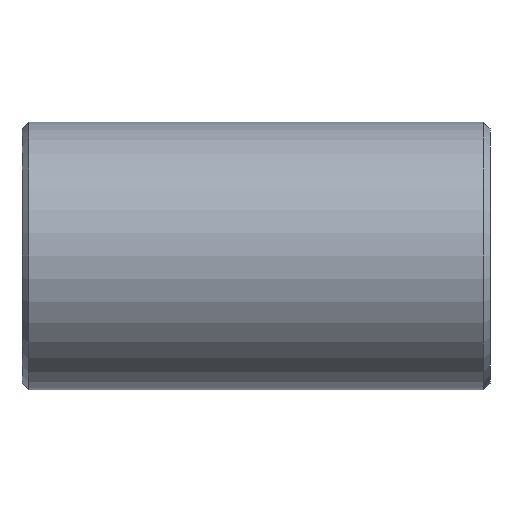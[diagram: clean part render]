
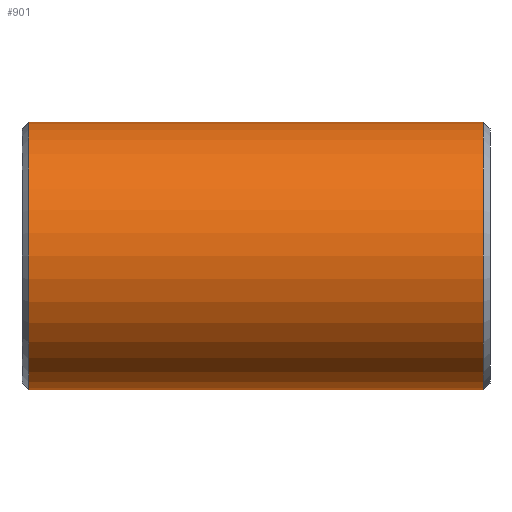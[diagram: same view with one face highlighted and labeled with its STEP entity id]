
A CAD part, left-side view. The second image highlights one B-rep face of the part: STEP entity #901.
In plain terms, the highlighted cylindrical face has radius 10 mm (diameter 20 mm), a partial arc.
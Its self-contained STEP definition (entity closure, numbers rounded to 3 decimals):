
#30 = CIRCLE ( 'NONE', #169, 10. ) ;
#61 = EDGE_LOOP ( 'NONE', ( #902, #170, #103, #231 ) ) ;
#71 = CARTESIAN_POINT ( 'NONE',  ( 0., 65.513, -10. ) ) ;
#103 = ORIENTED_EDGE ( 'NONE', *, *, #445, .T. ) ;
#108 = VECTOR ( 'NONE', #1232, 1000. ) ;
#147 = CARTESIAN_POINT ( 'NONE',  ( 0., -33., 10. ) ) ;
#167 = EDGE_CURVE ( 'NONE', #1070, #422, #576, .T. ) ;
#169 = AXIS2_PLACEMENT_3D ( 'NONE', #1262, #726, #183 ) ;
#170 = ORIENTED_EDGE ( 'NONE', *, *, #591, .T. ) ;
#183 = DIRECTION ( 'NONE',  ( 0., 0., 1. ) ) ;
#231 = ORIENTED_EDGE ( 'NONE', *, *, #1270, .T. ) ;
#283 = VERTEX_POINT ( 'NONE', #147 ) ;
#299 = AXIS2_PLACEMENT_3D ( 'NONE', #1229, #1103, #800 ) ;
#317 = CARTESIAN_POINT ( 'NONE',  ( 0., 65.513, 10. ) ) ;
#374 = CIRCLE ( 'NONE', #1019, 10. ) ;
#422 = VERTEX_POINT ( 'NONE', #1168 ) ;
#433 = DIRECTION ( 'NONE',  ( 0., 1., 0. ) ) ;
#445 = EDGE_CURVE ( 'NONE', #283, #1025, #738, .T. ) ;
#446 = CARTESIAN_POINT ( 'NONE',  ( 0., -33., 0. ) ) ;
#576 = LINE ( 'NONE', #71, #108 ) ;
#591 = EDGE_CURVE ( 'NONE', #1070, #283, #374, .T. ) ;
#726 = DIRECTION ( 'NONE',  ( 0., -1., 0. ) ) ;
#738 = LINE ( 'NONE', #317, #1074 ) ;
#800 = DIRECTION ( 'NONE',  ( 0., 0., 1. ) ) ;
#856 = DIRECTION ( 'NONE',  ( 0., 0., -1. ) ) ;
#901 = ADVANCED_FACE ( 'NONE', ( #1359 ), #1158, .T. ) ;
#902 = ORIENTED_EDGE ( 'NONE', *, *, #167, .F. ) ;
#1019 = AXIS2_PLACEMENT_3D ( 'NONE', #446, #433, #856 ) ;
#1025 = VERTEX_POINT ( 'NONE', #1160 ) ;
#1055 = CARTESIAN_POINT ( 'NONE',  ( 0., -33., -10. ) ) ;
#1064 = DIRECTION ( 'NONE',  ( 0., 1., 0. ) ) ;
#1070 = VERTEX_POINT ( 'NONE', #1055 ) ;
#1074 = VECTOR ( 'NONE', #1064, 1000. ) ;
#1103 = DIRECTION ( 'NONE',  ( 0., 1., 0. ) ) ;
#1158 = CYLINDRICAL_SURFACE ( 'NONE', #299, 10. ) ;
#1160 = CARTESIAN_POINT ( 'NONE',  ( 0., 1., 10. ) ) ;
#1168 = CARTESIAN_POINT ( 'NONE',  ( 0., 1., -10. ) ) ;
#1229 = CARTESIAN_POINT ( 'NONE',  ( 0., 65.513, 0. ) ) ;
#1232 = DIRECTION ( 'NONE',  ( 0., 1., 0. ) ) ;
#1262 = CARTESIAN_POINT ( 'NONE',  ( 0., 1., 0. ) ) ;
#1270 = EDGE_CURVE ( 'NONE', #1025, #422, #30, .T. ) ;
#1359 = FACE_OUTER_BOUND ( 'NONE', #61, .T. ) ;
